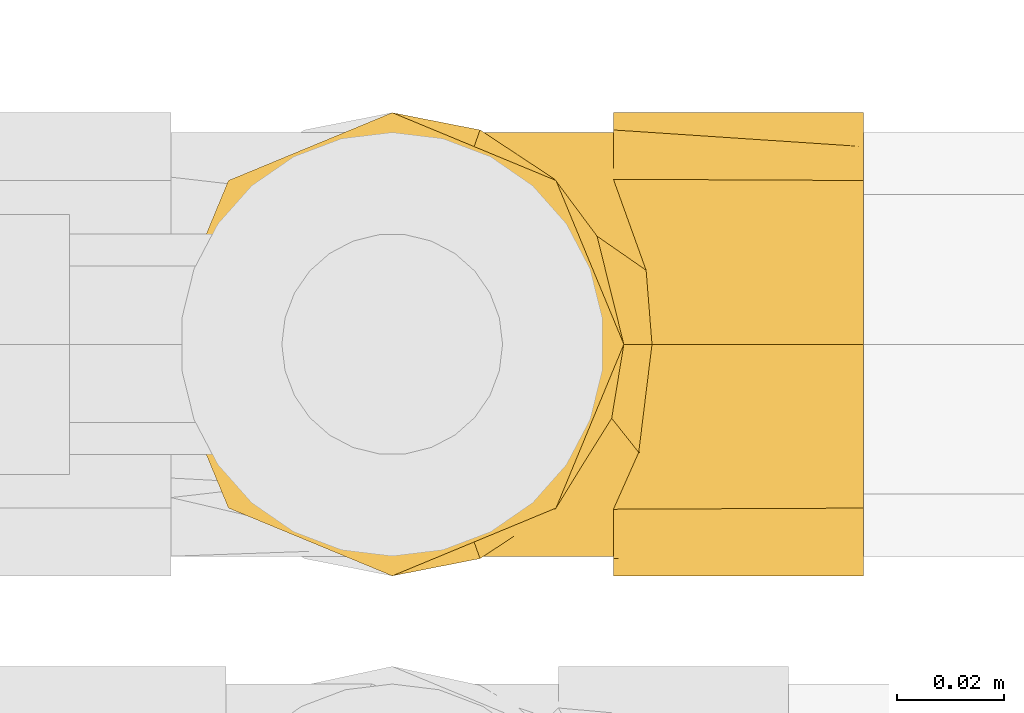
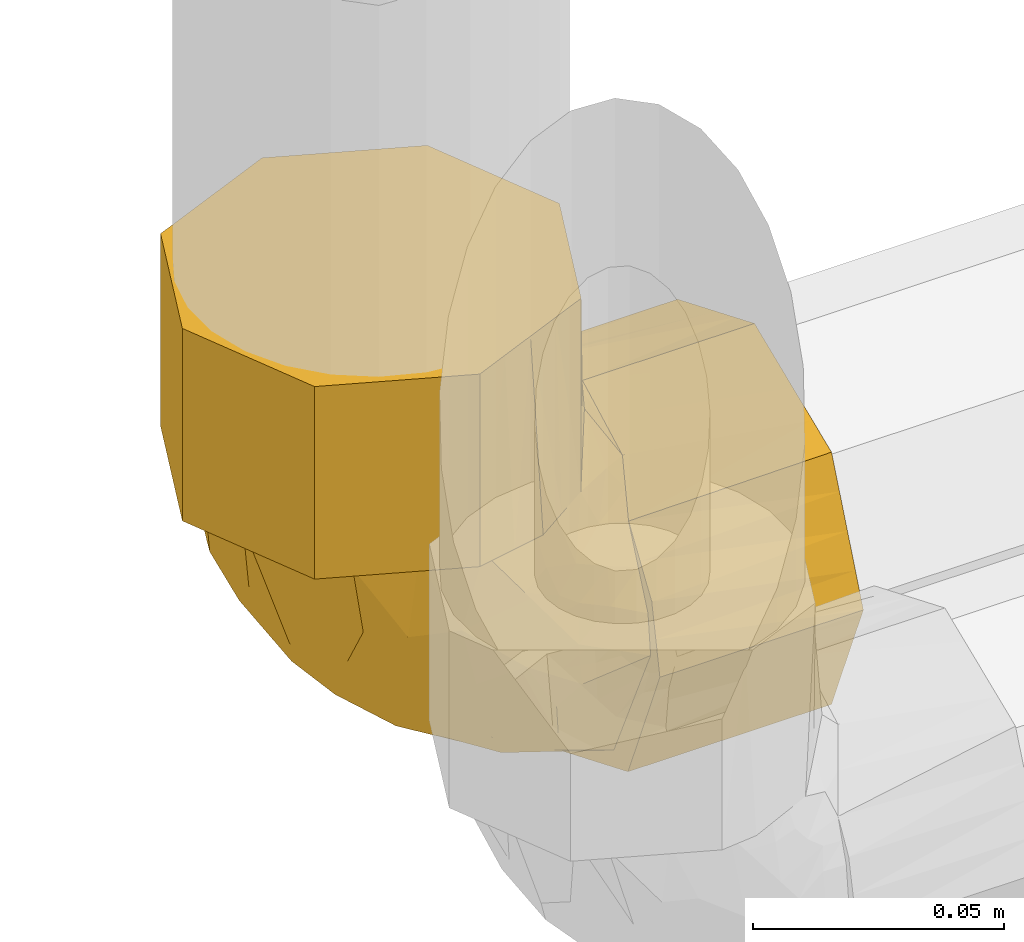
# One storey, part 181 of 652: 1 covering.
"""IFC2X3 building model written with IfcOpenShell, lengths in millimetres."""

from ifc_helpers import new_model, entity, si_unit, converted_unit, direction, frame, origin, place, context, subcontext, project, spatial, faceted_brep, material, type_object, element, save


model = new_model("IFC2X3")

# Units and contexts
model_context = context("Model", 3, precision=0.01, world=frame((0.0, 0.0, 308426.39999999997)), true_north=direction((6.123233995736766e-17, 1.0)))
plan_context = context("Plan", 3, precision=0.01, world=frame((0.0, 0.0, 308426.39999999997)), true_north=direction((6.123233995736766e-17, 1.0)))
body_context = subcontext(model_context, "Body", "Model", "MODEL_VIEW")
ifc_project = project(units=[si_unit("LENGTHUNIT", "METRE", prefix="MILLI"), si_unit("AREAUNIT", "SQUARE_METRE"), si_unit("VOLUMEUNIT", "CUBIC_METRE"), converted_unit("PLANEANGLEUNIT", "DEGREE", entity("IfcPlaneAngleMeasure", 0.017453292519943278), si_unit("PLANEANGLEUNIT", "RADIAN"), dimensions=[0, 0, 0, 0, 0, 0, 0])], contexts=[model_context, plan_context])

# Site, building, storey
site_placement = place(None, origin())
site = spatial("IfcSite", under=ifc_project, at=site_placement, Name="Default", CompositionType="ELEMENT")
building_placement = place(site_placement, origin())
building = spatial("IfcBuilding", under=site, at=building_placement, CompositionType="ELEMENT")
storey_placement = place(building_placement, frame((0.0, 0.0, 1730.6999999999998)))
storey = spatial("IfcBuildingStorey", under=building, at=storey_placement, Name="EG_Produktion_FFB", CompositionType="ELEMENT", Elevation=1730.6999999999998)

# Covering
ifc_material = material(Name="Dämmung - Armaflex-Schlauch")
covering_type = type_object("IfcCoveringType", Name="Rohrdämmung außen:Armaflex-Schlauch", PredefinedType="INSULATION")
covering_placement = place(storey_placement, frame((69455.09072776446, 40830.09072776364, 2653.0706746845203)))
element("IfcCovering", 1, at=covering_placement, inside=storey, type_object=covering_type, material=ifc_material, Name="Rohrdämmung außen:Armaflex-Schlauch", ObjectType="Rohrdämmung außen:Armaflex-Schlauch", PredefinedType="INSULATION", context=body_context, shape_type="Brep", body=[
    faceted_brep([(86.27477223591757, 1.5952722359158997, -88.11775000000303), (86.27477223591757, 3.2140241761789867, -79.90226074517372), (86.27477223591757, 4.83277611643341, -71.68677149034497), (86.27477223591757, 9.444991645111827, -64.70149861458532), (86.27477223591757, 14.057207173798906, -57.716225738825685), (86.27477223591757, 10.189917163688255, -66.55955447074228), (86.27477223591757, 6.322627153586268, -75.40288320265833), (86.27477223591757, 5.271772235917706, -85.04966346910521), (86.27477223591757, 8.801210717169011, -92.72698145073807), (86.27477223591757, 12.330649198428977, -100.40429943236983), (86.27477223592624, 16.11426416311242, -108.63450810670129), (86.27477223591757, 19.897879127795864, -116.8647167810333), (86.27477223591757, 28.598847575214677, -120.01964159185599), (86.27477223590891, 36.75405990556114, -122.97667814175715), (86.27477223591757, 44.909272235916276, -125.93371469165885), (86.27477223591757, 52.722214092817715, -122.03577136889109), (86.27477223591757, 60.53515594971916, -118.13782804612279), (86.27477223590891, 68.3480978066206, -114.23988472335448), (86.27477223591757, 76.16103966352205, -110.34194140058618), (86.27477223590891, 79.16192692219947, -101.29094031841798), (86.27477223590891, 81.85434957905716, -93.17030189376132), (86.27477223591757, 84.54677223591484, -85.04966346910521), (86.27477223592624, 83.74827741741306, -81.34938260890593), (86.27477223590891, 82.94978259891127, -77.64910174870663), (86.27477223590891, 81.71182968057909, -71.91234130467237), (86.27477223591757, 80.47387676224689, -66.17558086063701), (86.27477223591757, 75.76133729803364, -57.716225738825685), (86.27477223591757, 80.37355282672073, -64.70149861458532), (86.27477223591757, 84.98576835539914, -71.68677149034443), (86.27477223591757, 86.43872591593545, -79.06082116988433), (86.27477223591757, 88.22327223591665, -88.11775000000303), (86.27477223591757, 84.75898186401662, -96.4812867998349), (86.27477223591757, 81.88008379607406, -103.43156156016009), (86.27477223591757, 78.7084895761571, -111.08846734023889), (86.27477223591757, 75.53689535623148, -118.74537312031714), (86.27477223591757, 67.87998957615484, -121.91696734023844), (86.27477223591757, 60.223083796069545, -125.08856156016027), (86.27477223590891, 53.27280775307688, -127.96746015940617), (86.27477223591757, 44.909272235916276, -131.4317500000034), (86.27477223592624, 36.54573552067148, -127.96745966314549), (86.27477223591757, 29.595460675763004, -125.08856156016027), (86.27477223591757, 21.938554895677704, -121.91696734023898), (86.27477223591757, 14.281649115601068, -118.7453731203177), (86.27477223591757, 11.110054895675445, -111.08846734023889), (86.27477223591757, 7.938460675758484, -103.43156156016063), (86.27477223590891, 5.059562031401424, -96.48128540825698), (133.02702223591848, 44.909272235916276, -131.4317500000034), (133.02702223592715, 52.56617801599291, -128.26015578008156), (133.02702223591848, 60.223083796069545, -125.08856156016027), (133.02702223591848, 67.87998957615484, -121.91696734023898), (133.02702223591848, 75.53689535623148, -118.74537312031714), (133.02702223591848, 78.41579328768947, -111.79509868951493), (133.02702223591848, 81.29469121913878, -104.84482425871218), (133.0270222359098, 84.75898172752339, -96.48128712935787), (133.02702223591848, 88.22327223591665, -88.11775000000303), (133.02702223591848, 85.05167801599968, -80.46084421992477), (133.02702223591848, 81.88008379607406, -72.80393843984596), (133.02702223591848, 78.7084895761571, -65.14703265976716), (133.02702223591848, 75.53689535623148, -57.490126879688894), (133.02702223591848, 67.87998957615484, -54.318532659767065), (133.02702223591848, 60.223083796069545, -51.14693843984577), (133.02702223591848, 52.56617801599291, -47.97534421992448), (133.02702223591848, 44.909272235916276, -44.80375000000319), (133.02702223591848, 36.54573690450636, -48.26803976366), (133.02702223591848, 29.595460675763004, -51.14693843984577), (133.02702223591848, 21.938554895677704, -54.318532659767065), (133.02702223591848, 14.281649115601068, -57.490126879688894), (133.02702223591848, 11.110054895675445, -65.1470326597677), (133.02702223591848, 7.938460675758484, -72.80393843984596), (133.02702223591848, 4.766866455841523, -80.46084421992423), (133.02702223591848, 1.5952722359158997, -88.11775000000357), (133.02702223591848, 4.766866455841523, -95.77465578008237), (133.02702223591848, 7.938460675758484, -103.43156156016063), (133.0270222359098, 11.110054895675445, -111.08846734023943), (133.02702223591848, 14.281649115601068, -118.7453731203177), (133.0270222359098, 21.938554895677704, -121.91696734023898), (133.02702223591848, 29.595460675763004, -125.08856156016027), (133.02702223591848, 37.25236645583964, -128.26015578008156), (92.39161487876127, 58.75537900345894, -47.0764546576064), (92.72308548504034, 54.574402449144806, -46.390187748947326), (93.4893434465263, 44.909272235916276, -44.80375000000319), (89.33319355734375, 67.25835815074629, -52.39634019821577), (92.24819953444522, 34.80170281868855, -47.307090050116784), (91.00705562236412, 24.694133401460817, -49.810430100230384), (88.64091392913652, 19.375670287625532, -53.76332791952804), (44.909272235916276, 1.5952722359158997, -46.7522500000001), (36.54573603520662, 5.059562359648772, -46.7522500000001), (28.1821998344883, 8.523852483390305, -46.7522500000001), (21.23192447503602, 11.402750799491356, -46.7522500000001), (14.281649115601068, 14.281649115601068, -46.7522500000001), (11.110054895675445, 21.938554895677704, -46.7522500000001), (7.938460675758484, 29.595460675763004, -46.7522500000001), (5.059562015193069, 36.545736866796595, -46.7522500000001), (1.5952722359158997, 44.909272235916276, -46.7522500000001), (5.059562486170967, 53.27280874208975, -46.7522500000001), (7.938460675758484, 60.223083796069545, -46.7522500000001), (11.110054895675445, 67.87998957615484, -46.7522500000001), (14.281649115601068, 75.53689535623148, -46.7522500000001), (21.938554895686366, 78.70848957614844, -46.7522500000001), (29.59546067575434, 81.88008379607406, -46.7522500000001), (36.54573637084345, 84.75898225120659, -46.75224999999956), (44.909272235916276, 88.22327223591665, -46.7522500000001), (53.966202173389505, 86.43872569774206, -46.7522500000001), (61.340250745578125, 84.98576835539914, -46.7522500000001), (68.32552362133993, 80.37355282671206, -46.7522500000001), (75.31079649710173, 75.76133729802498, -46.7522500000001), (66.46746776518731, 79.62862730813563, -46.7522500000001), (57.624139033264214, 83.49591731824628, -46.7522500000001), (47.977358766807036, 84.54677223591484, -46.7522500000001), (40.02359543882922, 80.89024551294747, -46.7522500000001), (32.06983211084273, 77.23371878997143, -46.7522500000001), (24.116068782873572, 73.57719206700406, -46.7522500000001), (16.162305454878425, 69.92066534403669, -46.7522500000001), (11.627806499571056, 57.414968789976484, -46.7522500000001), (10.050344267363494, 53.06448504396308, -46.7522500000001), (7.093307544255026, 44.909272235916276, -46.7522500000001), (10.991250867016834, 37.09633037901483, -46.7522500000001), (14.889194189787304, 29.283388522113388, -46.7522500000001), (18.787137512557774, 21.470446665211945, -46.7522500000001), (22.685080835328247, 13.6575048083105, -46.7522500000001), (35.33121980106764, 9.464638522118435, -46.7522500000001), (47.977358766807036, 5.271772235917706, -46.7522500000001), (51.677640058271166, 6.070267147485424, -46.7522500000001), (55.37792134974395, 6.86876205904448, -46.7522500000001), (61.11468136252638, 8.106714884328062, -46.7522500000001), (66.85144137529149, 9.344667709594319, -46.7522500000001), (75.31079649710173, 14.05720717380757, -46.7522500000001), (68.32552362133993, 9.44499164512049, -46.7522500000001), (61.340250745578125, 4.83277611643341, -46.7522500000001), (53.966200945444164, 3.3798185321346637, -46.7522500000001), (88.22327223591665, 44.909272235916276, 0.0), (84.75898246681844, 53.27280758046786, 0.0), (81.88008379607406, 60.223083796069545, 0.0), (78.70848957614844, 67.87998957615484, 0.0), (75.53689535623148, 75.53689535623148, 0.0), (67.87998957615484, 78.7084895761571, 0.0), (60.223083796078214, 81.88008379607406, 0.0), (52.56617801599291, 85.05167801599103, 0.0), (44.909272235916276, 88.22327223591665, 0.0), (37.25236645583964, 85.05167801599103, 0.0), (29.59546067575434, 81.88008379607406, 0.0), (21.938554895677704, 78.7084895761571, 0.0), (14.281649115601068, 75.53689535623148, 0.0), (11.4027511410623, 68.58662082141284, 0.0), (8.523853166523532, 61.636346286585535, 0.0), (5.059562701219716, 53.27280926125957, 0.0), (1.5952722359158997, 44.909272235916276, 0.0), (4.766866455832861, 37.25236645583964, 0.0), (7.938460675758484, 29.595460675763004, 0.0), (11.110054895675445, 21.938554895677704, 0.0), (14.281649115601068, 14.281649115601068, 0.0), (21.938554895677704, 11.110054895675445, 0.0), (29.59546067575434, 7.938460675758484, 0.0), (37.25236645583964, 4.766866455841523, 0.0), (44.909272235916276, 1.5952722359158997, 0.0), (52.56617801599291, 4.766866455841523, 0.0), (60.223083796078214, 7.938460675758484, 0.0), (67.87998957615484, 11.110054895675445, 0.0), (75.53689535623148, 14.281649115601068, 0.0), (78.70848957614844, 21.938554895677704, 0.0), (81.8800837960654, 29.59546067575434, 0.0), (85.05167801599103, 37.25236645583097, 0.0), (88.22327223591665, 44.909272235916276, -39.53767878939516), (85.7199321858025, 55.016841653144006, -40.778822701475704), (83.21659213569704, 65.12441107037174, -42.01996661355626), (79.26369431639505, 70.44287418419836, -44.386108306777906), (85.95056757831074, 31.063165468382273, -40.635407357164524), (86.63683451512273, 35.24414219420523, -40.30393673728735), (80.6306820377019, 22.56018632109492, -43.693828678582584), (59.00702437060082, 81.09318334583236, -88.73429544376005), (40.774519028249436, 80.35462521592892, -71.80233442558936), (53.14689646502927, 83.62783125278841, -72.73171129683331), (66.6465202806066, 77.29128021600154, -101.46918686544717), (51.63313701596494, 64.2599094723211, -106.10858534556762), (43.08373948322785, 54.28195365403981, -104.6243394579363), (37.02131540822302, 63.722662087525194, -94.19573320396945), (41.79478775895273, 74.64394109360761, -86.62214195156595), (68.5994420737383, 65.33151838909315, -114.66824963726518), (68.369874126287, 83.68905092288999, -85.54000769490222), (19.457763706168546, 53.254009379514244, -77.34212049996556), (12.671024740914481, 53.21106991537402, -63.108838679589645), (15.757507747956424, 59.68883166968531, -65.48441634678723), (64.54760757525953, 54.90746421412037, -117.68107501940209), (60.88326927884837, 71.24492500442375, -106.03030708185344), (69.69467833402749, 84.54677223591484, -76.51750923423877), (24.87346118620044, 71.08909930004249, -68.47704441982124), (30.406426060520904, 77.47444134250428, -63.495342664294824), (71.37519469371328, 44.909272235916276, -116.84576107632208), (30.250301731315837, 56.49800005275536, -91.2229792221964), (26.676462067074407, 44.909272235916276, -89.58190023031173), (16.884884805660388, 44.909272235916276, -68.16707511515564), (15.257114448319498, 44.909272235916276, -64.60703401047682), (56.47561715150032, 44.909272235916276, -107.75780746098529), (45.75001504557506, 69.82577363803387, -96.8381518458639), (41.57603960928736, 44.909272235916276, -98.6698538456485), (24.97846845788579, 62.77103932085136, -79.91196653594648), (33.12068544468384, 69.36834535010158, -84.11181017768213), (52.66636649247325, 84.54677223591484, -53.1788962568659), (57.355374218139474, 84.54677223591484, -59.60554251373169), (58.83601855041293, 84.54677223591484, -61.63487961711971), (63.525026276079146, 84.54677223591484, -68.0615258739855), (77.98472528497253, 84.54677223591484, -80.78358635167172), (82.69494815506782, 84.54677223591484, -83.20747781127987), (76.76607882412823, 83.21561390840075, -69.04670125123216), (78.47075535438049, 77.57009588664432, -54.556266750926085), (79.81672477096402, 80.01647633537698, -61.11186851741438), (72.36144172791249, 82.50076779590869, -62.409136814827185), (90.61786287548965, 44.909272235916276, -42.40915936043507), (84.55846897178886, 69.11943588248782, -48.01851651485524), (62.424241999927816, 83.42582518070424, -55.41828837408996), (70.33989982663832, 80.87166183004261, -54.00077362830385), (66.44091790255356, 83.31704110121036, -60.14265850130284), (77.75316620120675, 6.36983714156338, -70.80808668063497), (79.1151240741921, 5.271772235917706, -81.36529215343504), (85.00850621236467, 20.699109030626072, -48.46855326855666), (78.50079160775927, 12.277698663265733, -54.52623050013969), (70.60396120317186, 7.774699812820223, -58.74435758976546), (78.4647266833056, 8.780218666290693, -62.718384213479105), (70.42529171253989, 6.031535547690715, -67.20716304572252), (65.67912818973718, 5.8858975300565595, -63.60418390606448), (50.32186262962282, 5.271772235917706, -49.96557312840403), (52.66636649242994, 5.271772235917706, -53.17889625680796), (57.355374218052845, 5.271772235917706, -59.60554251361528), (63.52502627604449, 5.271772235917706, -68.06152587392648), (63.00262370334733, 6.411600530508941, -56.15572771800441), (69.69467833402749, 5.271772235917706, -76.51750923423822), (58.83601855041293, 5.271772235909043, -61.63487961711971), (71.51170717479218, 17.88358938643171, -110.4895373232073), (69.01116982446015, 12.125086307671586, -102.01509896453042), (56.701226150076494, 16.90165112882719, -101.62783839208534), (43.98287164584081, 6.9647082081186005, -65.19910851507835), (46.38350960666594, 37.456410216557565, -107.69923858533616), (41.55313402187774, 21.961010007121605, -95.05710334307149), (63.24935143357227, 24.76338004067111, -112.39514387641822), (66.35650053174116, 8.181328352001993, -92.18182718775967), (71.09733306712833, 6.1333731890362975, -87.21494597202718), (26.304606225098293, 15.727702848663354, -64.70970163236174), (39.69496521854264, 15.418239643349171, -84.69214179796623), (33.85362436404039, 10.995633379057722, -65.71529073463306), (58.27323202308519, 6.282339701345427, -78.62112142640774), (48.64795700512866, 9.351008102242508, -81.21836113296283), (19.562414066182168, 33.31902489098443, -75.81996252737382), (32.226075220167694, 37.185424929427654, -94.93182715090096), (29.05455087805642, 30.50188918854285, -88.21869424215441), (65.09145612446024, 35.010191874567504, -117.95353214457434), (26.029711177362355, 21.40322444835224, -75.03858447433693), (40.905739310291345, 30.26940447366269, -100.58448414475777)], [[[0, 1, 2, 3, 4, 5, 6, 7, 8, 9, 10, 11, 12, 13, 14, 15, 16, 17, 18, 19, 20, 21, 22, 23, 24, 25, 26, 27, 28, 29, 30, 31, 32, 33, 34, 35, 36, 37, 38, 39, 40, 41, 42, 43, 44, 45]], [[46, 47, 48, 49, 50, 51, 52, 53, 54, 55, 56, 57, 58, 59, 60, 61, 62, 63, 64, 65, 66, 67, 68, 69, 70, 71, 72, 73, 74, 75, 76, 77]], [[26, 58, 57]], [[27, 26, 57]], [[61, 78, 79, 80]], [[30, 29, 55]], [[78, 60, 81]], [[29, 56, 55]], [[56, 28, 27]], [[30, 55, 54]], [[56, 27, 57]], [[56, 29, 28]], [[61, 80, 62]], [[58, 81, 60, 59]], [[61, 60, 78]], [[58, 26, 81]], [[31, 30, 54, 53, 52, 51, 50, 34, 33, 32]], [[34, 50, 49, 48, 47, 46, 38, 37, 36, 35]], [[0, 45, 44, 43, 42, 74, 73, 72, 71, 70]], [[76, 75, 74, 42, 41, 40, 39, 38, 46, 77]], [[70, 1, 0]], [[3, 2, 68]], [[82, 64, 63]], [[4, 67, 66]], [[3, 68, 67]], [[65, 83, 84, 4]], [[64, 82, 83]], [[68, 2, 69]], [[1, 70, 69]], [[63, 80, 82]], [[69, 2, 1]], [[67, 4, 3]], [[63, 62, 80]], [[65, 4, 66]], [[65, 64, 83]], [[85, 86, 87, 88, 89, 90, 91, 92, 93, 94, 95, 96, 97, 98, 99, 100, 101, 102, 103, 104, 105, 106, 107, 108, 109, 110, 111, 112, 113, 114, 115, 116, 117, 118, 119, 120, 121, 122, 123, 124, 125, 126, 127, 128, 129]], [[130, 131, 132, 133, 134, 135, 136, 137, 138, 139, 140, 141, 142, 143, 144, 145, 146, 147, 148, 149, 150, 151, 152, 153, 154, 155, 156, 157, 158, 159, 160, 161]], [[144, 143, 142, 97, 96, 95, 94, 93, 146, 145]], [[97, 142, 141, 140, 139, 138, 101, 100, 99, 98]], [[136, 102, 137]], [[105, 135, 134]], [[131, 130, 162]], [[101, 137, 102]], [[104, 136, 135]], [[104, 103, 136]], [[132, 163, 164]], [[163, 132, 131]], [[133, 164, 165, 105]], [[131, 162, 163]], [[101, 138, 137]], [[135, 105, 104]], [[102, 136, 103]], [[133, 105, 134]], [[133, 132, 164]], [[161, 162, 130]], [[85, 129, 155]], [[161, 166, 167, 162]], [[156, 128, 127]], [[166, 160, 168]], [[129, 156, 155]], [[157, 156, 127]], [[85, 155, 154]], [[158, 168, 160, 159]], [[156, 129, 128]], [[161, 160, 166]], [[158, 126, 168]], [[126, 157, 127]], [[126, 158, 157]], [[150, 89, 88, 87, 86, 85, 154, 153, 152, 151]], [[89, 150, 149, 148, 147, 146, 93, 92, 91, 90]], [[169, 170, 171]], [[19, 172, 169]], [[173, 174, 175]], [[176, 170, 169]], [[17, 16, 177]], [[21, 20, 178]], [[179, 180, 181]], [[182, 177, 16]], [[178, 20, 169]], [[19, 18, 172]], [[18, 17, 183]], [[20, 19, 169]], [[184, 178, 171]], [[185, 186, 176]], [[176, 169, 172]], [[176, 172, 183]], [[15, 187, 182]], [[183, 17, 177]], [[186, 111, 110]], [[175, 174, 188]], [[179, 189, 190, 191]], [[182, 173, 177]], [[183, 177, 173]], [[182, 16, 15]], [[173, 182, 174]], [[182, 192, 174]], [[173, 175, 193]], [[183, 172, 18]], [[188, 194, 189]], [[189, 179, 188]], [[185, 195, 181]], [[109, 170, 110]], [[185, 112, 111]], [[170, 186, 110]], [[196, 185, 176]], [[170, 109, 171]], [[171, 108, 197, 198, 199, 200, 184]], [[176, 186, 170]], [[185, 111, 186]], [[179, 181, 195]], [[108, 171, 109]], [[185, 181, 112]], [[181, 180, 113]], [[188, 179, 195]], [[188, 195, 175]], [[174, 194, 188]], [[196, 195, 185]], [[196, 176, 193]], [[115, 114, 113, 180]], [[112, 181, 113]], [[179, 191, 180]], [[115, 180, 191]], [[171, 178, 169]], [[174, 192, 194]], [[178, 184, 201, 202, 21]], [[187, 15, 14]], [[187, 192, 182]], [[193, 176, 183]], [[195, 196, 175]], [[173, 193, 183]], [[175, 196, 193]], [[203, 25, 24]], [[204, 26, 205]], [[206, 205, 203]], [[207, 80, 79]], [[203, 200, 206]], [[208, 165, 164]], [[78, 164, 163]], [[209, 107, 106]], [[204, 205, 206]], [[204, 210, 105]], [[107, 198, 197, 108]], [[210, 204, 206]], [[210, 209, 106]], [[79, 163, 207]], [[163, 79, 78]], [[207, 163, 162]], [[209, 210, 211]], [[198, 209, 211]], [[204, 165, 208]], [[78, 81, 26, 208]], [[105, 210, 106]], [[210, 206, 211]], [[208, 26, 204]], [[107, 209, 198]], [[204, 105, 165]], [[78, 208, 164]], [[26, 25, 205]], [[203, 205, 25]], [[202, 201, 24, 23, 22, 21]], [[200, 203, 184]], [[201, 203, 24]], [[203, 201, 184]], [[206, 200, 211]], [[211, 200, 199, 198]], [[207, 82, 80]], [[212, 213, 6]], [[84, 214, 215]], [[125, 216, 126]], [[7, 6, 213]], [[4, 217, 5]], [[218, 217, 216]], [[216, 217, 215]], [[167, 166, 82]], [[216, 215, 126]], [[166, 83, 82]], [[219, 218, 216]], [[215, 217, 4]], [[84, 83, 214]], [[122, 121, 220, 221, 222, 124, 123]], [[207, 162, 167]], [[218, 219, 223]], [[125, 224, 216]], [[6, 5, 212]], [[167, 82, 207]], [[166, 168, 126, 214]], [[218, 212, 217]], [[215, 4, 84]], [[214, 126, 215]], [[166, 214, 83]], [[223, 225, 218]], [[212, 218, 225]], [[212, 225, 213]], [[217, 212, 5]], [[216, 224, 219]], [[222, 224, 124]], [[219, 222, 226, 223]], [[224, 125, 124]], [[222, 219, 224]], [[227, 228, 229]], [[230, 121, 120]], [[192, 231, 194]], [[232, 233, 229]], [[234, 8, 235]], [[236, 237, 238]], [[9, 228, 10]], [[234, 235, 239]], [[240, 234, 239]], [[119, 236, 238]], [[241, 242, 243]], [[235, 7, 213, 225]], [[227, 11, 10]], [[9, 8, 234]], [[12, 233, 244]], [[227, 233, 11]], [[230, 226, 222, 221, 220, 121]], [[238, 237, 240]], [[241, 117, 116]], [[239, 230, 240]], [[239, 226, 230]], [[240, 230, 238]], [[238, 230, 120]], [[120, 119, 238]], [[118, 245, 236]], [[241, 245, 117]], [[237, 232, 229]], [[245, 243, 232]], [[229, 240, 237]], [[187, 13, 244]], [[233, 12, 11]], [[194, 231, 242]], [[246, 244, 233]], [[244, 192, 187]], [[239, 225, 223, 226]], [[228, 240, 229]], [[9, 234, 228]], [[240, 228, 234]], [[246, 242, 231]], [[194, 242, 189]], [[245, 232, 237]], [[233, 232, 246]], [[228, 227, 10]], [[233, 227, 229]], [[116, 190, 241]], [[190, 189, 241]], [[116, 115, 191, 190]], [[192, 244, 231]], [[244, 246, 231]], [[243, 242, 246]], [[241, 189, 242]], [[232, 243, 246]], [[245, 241, 243]], [[7, 235, 8]], [[225, 239, 235]], [[118, 117, 245]], [[237, 236, 245]], [[236, 119, 118]], [[13, 187, 14]], [[13, 12, 244]]]),
])

save(model, "model.ifc")
